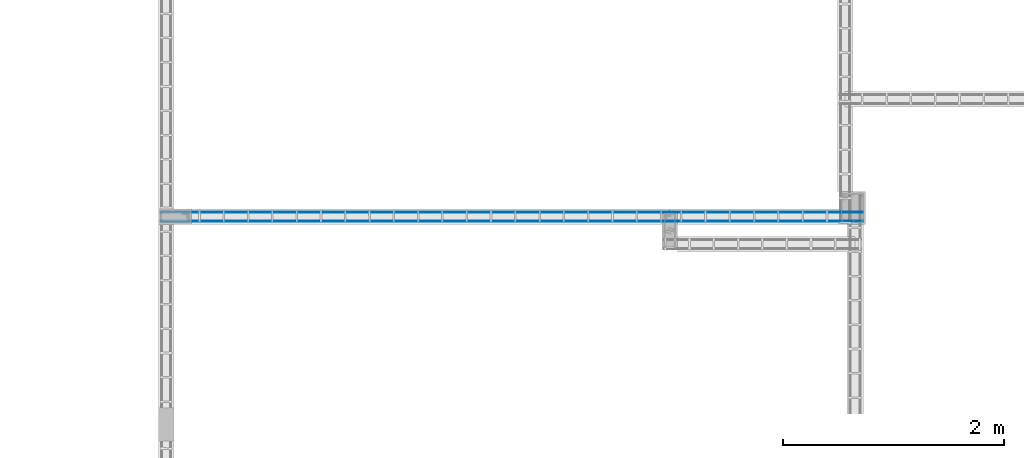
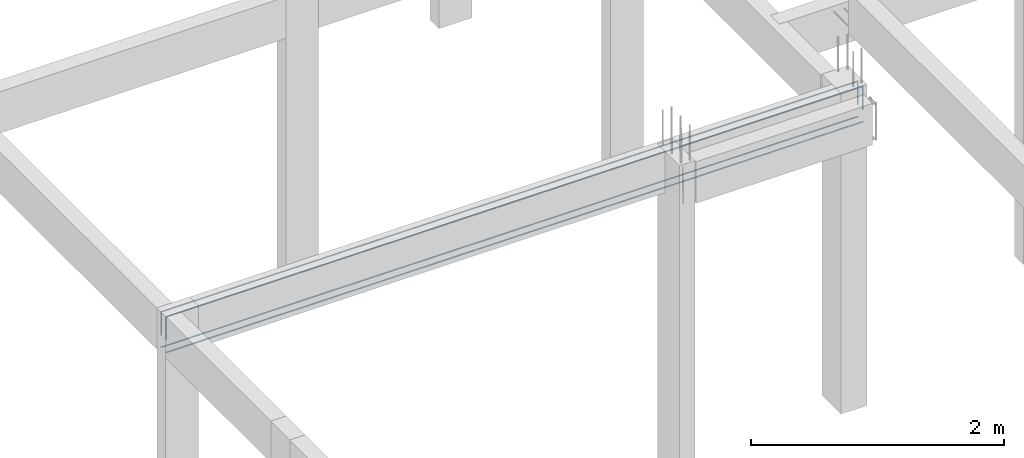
# One storey, part 90 of 236: 4 reinforcing bars.
"""IFC4 building model written with IfcOpenShell, lengths in centimetres."""

from ifc_helpers import new_model, entity, si_unit, derived_unit, frame, origin_with_axes, place, context, project, spatial, element, save


model = new_model("IFC4")

# Units and contexts
model_context = context("Model", 3, precision=1e-05, world=origin_with_axes(), identifier="Body")
ifc_project = project(units=[si_unit("LENGTHUNIT", "METRE", prefix="CENTI"), si_unit("VOLUMEUNIT", "CUBIC_METRE"), si_unit("AREAUNIT", "SQUARE_METRE"), si_unit("POWERUNIT", "WATT"), si_unit("LUMINOUSFLUXUNIT", "LUMEN"), si_unit("ELECTRICCURRENTUNIT", "AMPERE"), si_unit("PRESSUREUNIT", "PASCAL", prefix="KILO"), si_unit("MASSUNIT", "GRAM", prefix="KILO"), si_unit("PLANEANGLEUNIT", "RADIAN"), derived_unit("VOLUMETRICFLOWRATEUNIT", [(si_unit("LENGTHUNIT", "METRE"), 3), (si_unit("TIMEUNIT", "SECOND"), -1)])], contexts=[model_context])

# Site, building, storey
site_placement = place(None, frame((-4000.0, 0.0, 0.0), z_axis=(0.0, 0.0, 1.0), x_axis=(1.0, 0.0, 0.0)))
site = spatial("IfcSite", under=ifc_project, at=site_placement, Name="PADRÃO")
building_placement = place(site_placement, frame((0.0, 0.0, -14.0)))
building = spatial("IfcBuilding", under=site, at=building_placement, Name="CRECHE PRÉ-ESCOLA TIPO 2")
placement_1 = place(building_placement, origin_with_axes())
placement_2 = place(placement_1, frame((0.0, 0.0, 30.0), z_axis=(0.0, 0.0, 1.0), x_axis=(1.0, 0.0, 0.0)))
storey_placement = place(placement_2, frame((0.0, 0.0, 310.0), z_axis=(0.0, 0.0, 1.0), x_axis=(1.0, 0.0, 0.0)))
storey = spatial("IfcBuildingStorey", under=building, at=storey_placement, Name="TERREO", CompositionType="ELEMENT", Elevation=326.0)

# Reinforcing bars
for number, where, z_axis, x_axis, name in (
    (1, (2836.76, 2574.42, -36.7), (0.0, 0.0, 1.0), (1.0, 0.0, 0.0), "V228 - Longitudinal inferior"),
    (2, (2836.76, 2582.62, -36.7), (0.0, 0.0, 1.0), (1.0, 0.0, 0.0), "V228 - Longitudinal inferior"),
):
    element("IfcReinforcingBar", number, at=place(storey_placement, frame(where, z_axis=z_axis, x_axis=x_axis)), inside=storey, Name=name, BarLength=0.0, CrossSectionArea=5.0265482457e-05, NominalDiameter=0.8, PredefinedType="MAIN", context=model_context, shape_type="AdvancedSweptSolid", body=[
        entity("IfcSweptDiskSolid", entity("IfcCompositeCurve", [entity("IfcCompositeCurveSegment", "CONTINUOUS", True, entity("IfcPolyline", [entity("IfcCartesianPoint", [-318.26, 0.0, -0.4]), entity("IfcCartesianPoint", [318.26, 0.0, -0.4])]))], False), 0.4),
    ])
for number, where, z_axis, x_axis, name in (
    (3, (2836.76, 2574.42, -2.49624973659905), (0.0, 0.0, 1.0), (1.0, 0.0, 0.0), "V228 - Longitudinal superior"),
    (4, (2836.76, 2582.62, -2.49624973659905), (0.0, 0.0, 1.0), (1.0, 0.0, 0.0), "V228 - Longitudinal superior"),
):
    element("IfcReinforcingBar", number, at=place(storey_placement, frame(where, z_axis=z_axis, x_axis=x_axis)), inside=storey, Name=name, BarLength=0.0, CrossSectionArea=5.0265482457e-05, NominalDiameter=0.8, PredefinedType="MAIN", context=model_context, shape_type="AdvancedSweptSolid", body=[
        entity("IfcSweptDiskSolid", entity("IfcCompositeCurve", [entity("IfcCompositeCurveSegment", "CONTINUOUS", True, entity("IfcPolyline", [entity("IfcCartesianPoint", [-317.86, 0.0, -22.7014629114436]), entity("IfcCartesianPoint", [-317.86, 0.0, -0.403750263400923])])), entity("IfcCompositeCurveSegment", "CONTINUOUS", True, entity("IfcPolyline", [entity("IfcCartesianPoint", [-317.86, 0.0, -0.403750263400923]), entity("IfcCartesianPoint", [317.86, 0.0, -0.403750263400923])])), entity("IfcCompositeCurveSegment", "CONTINUOUS", True, entity("IfcPolyline", [entity("IfcCartesianPoint", [317.86, 0.0, -0.403750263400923]), entity("IfcCartesianPoint", [317.86, 0.0, -22.7014629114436])]))], False), 0.4),
    ])

save(model, "model.ifc")
